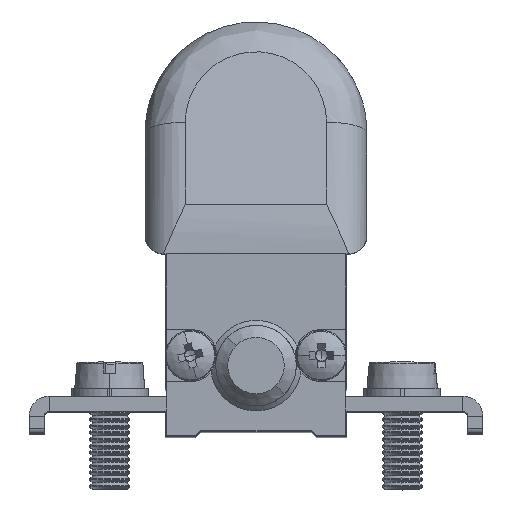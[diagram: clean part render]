
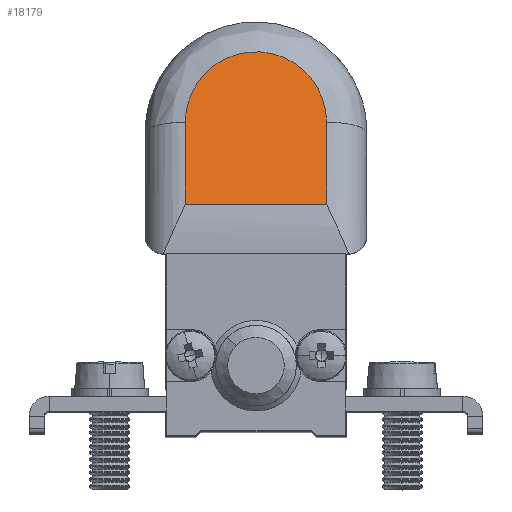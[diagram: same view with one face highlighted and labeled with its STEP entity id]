
A CAD part, top view. The second image highlights one B-rep face of the part: STEP entity #18179.
In plain terms, the highlighted planar face has unit normal (0, 0.259, 0.966) as drawn and (0, 0.259, -0.966) by its records, which use the part's own axes.
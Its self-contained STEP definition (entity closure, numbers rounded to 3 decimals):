
#117 = ORIENTED_EDGE ( 'NONE', *, *, #6582, .T. ) ;
#132 = ORIENTED_EDGE ( 'NONE', *, *, #6598, .T. ) ;
#146 = ORIENTED_EDGE ( 'NONE', *, *, #6520, .T. ) ;
#147 = ORIENTED_EDGE ( 'NONE', *, *, #6513, .T. ) ;
#588 = LINE ( 'NONE', #16645, #593 ) ;
#593 = VECTOR ( 'NONE', #16551, 1000. ) ;
#638 = LINE ( 'NONE', #17061, #640 ) ;
#640 = VECTOR ( 'NONE', #17028, 1000. ) ;
#646 = LINE ( 'NONE', #17262, #649 ) ;
#649 = VECTOR ( 'NONE', #17111, 1000. ) ;
#1670 = AXIS2_PLACEMENT_3D ( 'NONE', #3921, #3930, #3931 ) ;
#2614 = FACE_OUTER_BOUND ( 'NONE', #19466, .T. ) ;
#3921 = CARTESIAN_POINT ( 'NONE',  ( 19.901, 45.924, 2.812 ) ) ;
#3928 = PLANE ( 'NONE',  #1670 ) ;
#3930 = DIRECTION ( 'NONE',  ( 0., -0.259, 0.966 ) ) ;
#3931 = DIRECTION ( 'NONE',  ( 0., -0.966, -0.259 ) ) ;
#6513 = EDGE_CURVE ( 'NONE', #17646, #20981, #588, .T. ) ;
#6520 = EDGE_CURVE ( 'NONE', #20981, #20629, #11571, .T. ) ;
#6582 = EDGE_CURVE ( 'NONE', #20629, #17625, #638, .T. ) ;
#6598 = EDGE_CURVE ( 'NONE', #17625, #17646, #646, .T. ) ;
#9825 = CARTESIAN_POINT ( 'NONE',  ( 15.9, 31.035, -1.177 ) ) ;
#10179 = CARTESIAN_POINT ( 'NONE',  ( 1.9, 31.035, -1.177 ) ) ;
#11571 =( BOUNDED_CURVE ( )  B_SPLINE_CURVE ( 3, ( #16610, #16619, #16555, #16639 ),
 .UNSPECIFIED., .F., .F. ) 
 B_SPLINE_CURVE_WITH_KNOTS ( ( 4, 4 ),
 ( 1.571, 4.712 ),
 .UNSPECIFIED. ) 
 CURVE ( )  GEOMETRIC_REPRESENTATION_ITEM ( )  RATIONAL_B_SPLINE_CURVE ( ( 1., 0.333, 0.333, 1. ) ) 
 REPRESENTATION_ITEM ( '' )  );
#15105 = CARTESIAN_POINT ( 'NONE',  ( 1.9, 22.916, -3.353 ) ) ;
#15140 = CARTESIAN_POINT ( 'NONE',  ( 15.9, 22.916, -3.353 ) ) ;
#16551 = DIRECTION ( 'NONE',  ( 0., 0.966, 0.259 ) ) ;
#16555 = CARTESIAN_POINT ( 'NONE',  ( 15.9, 45.035, 2.574 ) ) ;
#16610 = CARTESIAN_POINT ( 'NONE',  ( 1.9, 31.035, -1.177 ) ) ;
#16619 = CARTESIAN_POINT ( 'NONE',  ( 1.9, 45.035, 2.574 ) ) ;
#16639 = CARTESIAN_POINT ( 'NONE',  ( 15.9, 31.035, -1.177 ) ) ;
#16645 = CARTESIAN_POINT ( 'NONE',  ( 1.9, 30., -1.454 ) ) ;
#17028 = DIRECTION ( 'NONE',  ( 0., -0.966, -0.259 ) ) ;
#17061 = CARTESIAN_POINT ( 'NONE',  ( 15.9, 20.5, -4. ) ) ;
#17111 = DIRECTION ( 'NONE',  ( -1., 0., 0. ) ) ;
#17262 = CARTESIAN_POINT ( 'NONE',  ( 19.901, 22.916, -3.353 ) ) ;
#17625 = VERTEX_POINT ( 'NONE', #15140 ) ;
#17646 = VERTEX_POINT ( 'NONE', #15105 ) ;
#18179 = ADVANCED_FACE ( 'NONE', ( #2614 ), #3928, .F. ) ;
#19466 = EDGE_LOOP ( 'NONE', ( #117, #132, #147, #146 ) ) ;
#20629 = VERTEX_POINT ( 'NONE', #9825 ) ;
#20981 = VERTEX_POINT ( 'NONE', #10179 ) ;
